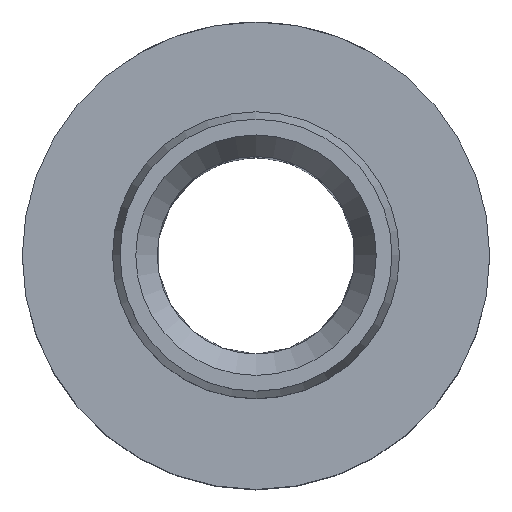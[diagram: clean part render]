
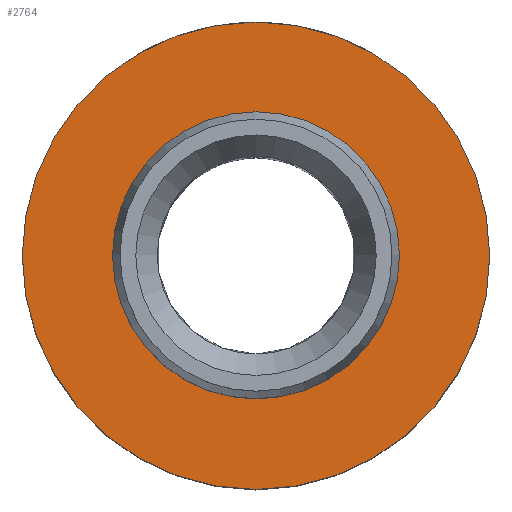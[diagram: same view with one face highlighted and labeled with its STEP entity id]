
A CAD part, top view. The second image highlights one B-rep face of the part: STEP entity #2764.
In plain terms, the highlighted conical face has half-angle 89.989 degrees and reference radius 8.698 mm.
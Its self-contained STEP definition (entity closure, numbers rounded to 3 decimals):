
#27=CONICAL_SURFACE('',#2947,8.698,1.571);
#175=CIRCLE('',#2945,6.397);
#176=CIRCLE('',#2946,6.397);
#177=CIRCLE('',#2948,11.);
#178=CIRCLE('',#2949,11.);
#393=FACE_OUTER_BOUND('',#554,.T.);
#554=EDGE_LOOP('',(#2382,#2383,#2384,#2385,#2386,#2387));
#743=LINE('',#6034,#907);
#907=VECTOR('',#3457,8.698);
#1259=VERTEX_POINT('',#6024);
#1260=VERTEX_POINT('',#6025);
#1261=VERTEX_POINT('',#6030);
#1262=VERTEX_POINT('',#6031);
#1652=EDGE_CURVE('',#1259,#1260,#175,.T.);
#1653=EDGE_CURVE('',#1260,#1259,#176,.T.);
#1655=EDGE_CURVE('',#1261,#1262,#177,.T.);
#1656=EDGE_CURVE('',#1262,#1261,#178,.T.);
#1657=EDGE_CURVE('',#1262,#1260,#743,.T.);
#2382=ORIENTED_EDGE('',*,*,#1655,.F.);
#2383=ORIENTED_EDGE('',*,*,#1656,.F.);
#2384=ORIENTED_EDGE('',*,*,#1657,.T.);
#2385=ORIENTED_EDGE('',*,*,#1653,.T.);
#2386=ORIENTED_EDGE('',*,*,#1652,.T.);
#2387=ORIENTED_EDGE('',*,*,#1657,.F.);
#2764=ADVANCED_FACE('',(#393),#27,.T.);
#2945=AXIS2_PLACEMENT_3D('',#6026,#3446,#3447);
#2946=AXIS2_PLACEMENT_3D('',#6027,#3448,#3449);
#2947=AXIS2_PLACEMENT_3D('',#6029,#3451,#3452);
#2948=AXIS2_PLACEMENT_3D('',#6032,#3453,#3454);
#2949=AXIS2_PLACEMENT_3D('',#6033,#3455,#3456);
#3446=DIRECTION('center_axis',(0.,0.,-1.));
#3447=DIRECTION('ref_axis',(1.,0.,0.));
#3448=DIRECTION('center_axis',(0.,0.,-1.));
#3449=DIRECTION('ref_axis',(1.,0.,0.));
#3451=DIRECTION('center_axis',(0.,0.,-1.));
#3452=DIRECTION('ref_axis',(0.,1.,0.));
#3453=DIRECTION('center_axis',(0.,0.,-1.));
#3454=DIRECTION('ref_axis',(1.,0.,0.));
#3455=DIRECTION('center_axis',(0.,0.,-1.));
#3456=DIRECTION('ref_axis',(1.,0.,0.));
#3457=DIRECTION('',(0.,1.,0.));
#6024=CARTESIAN_POINT('',(0.,6.397,28.301));
#6025=CARTESIAN_POINT('',(0.,-6.397,28.301));
#6026=CARTESIAN_POINT('Origin',(0.,0.,28.301));
#6027=CARTESIAN_POINT('Origin',(0.,0.,28.301));
#6029=CARTESIAN_POINT('Origin',(0.,0.,28.3));
#6030=CARTESIAN_POINT('',(0.,11.,28.3));
#6031=CARTESIAN_POINT('',(0.,-11.,28.3));
#6032=CARTESIAN_POINT('Origin',(0.,0.,28.3));
#6033=CARTESIAN_POINT('Origin',(0.,0.,28.3));
#6034=CARTESIAN_POINT('',(0.,-8.698,28.3));
